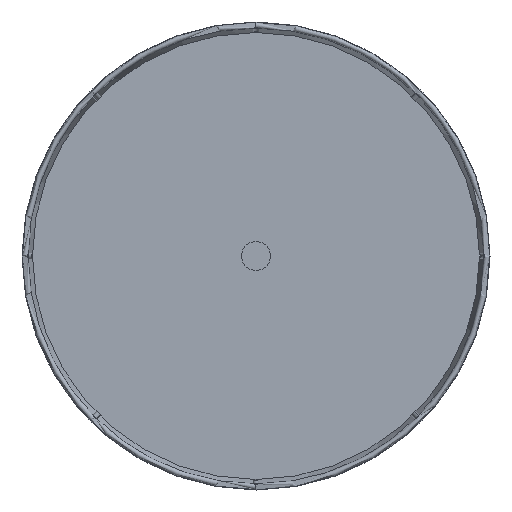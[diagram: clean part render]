
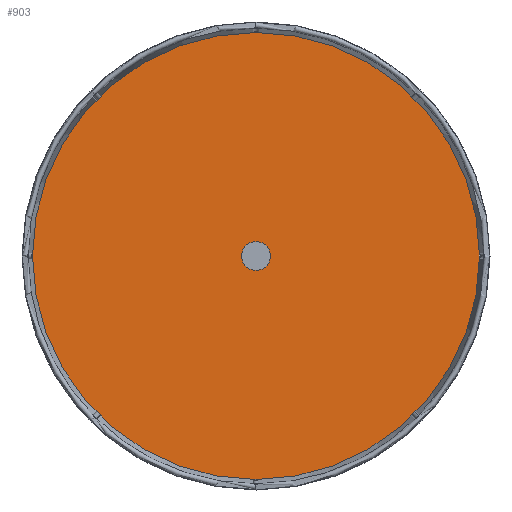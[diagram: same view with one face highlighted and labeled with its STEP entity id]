
A CAD part, front view. The second image highlights one B-rep face of the part: STEP entity #903.
In plain terms, the highlighted planar face has unit normal (0, -1, 0).
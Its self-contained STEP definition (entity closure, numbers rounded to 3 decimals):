
#188 = AXIS2_PLACEMENT_3D ( 'NONE', #11133, #11394, #10922 ) ;
#199 = AXIS2_PLACEMENT_3D ( 'NONE', #9397, #4051, #10299 ) ;
#351 = AXIS2_PLACEMENT_3D ( 'NONE', #3853, #3838, #3822 ) ;
#466 = ORIENTED_EDGE ( 'NONE', *, *, #10085, .F. ) ;
#721 = AXIS2_PLACEMENT_3D ( 'NONE', #5018, #11321, #5906 ) ;
#727 = ORIENTED_EDGE ( 'NONE', *, *, #5564, .T. ) ;
#795 = CARTESIAN_POINT ( 'NONE',  ( 8., -114., 0. ) ) ;
#903 = ADVANCED_FACE ( 'NONE', ( #9829, #7718 ), #5331, .F. ) ;
#2427 = EDGE_LOOP ( 'NONE', ( #727, #3111 ) ) ;
#3111 = ORIENTED_EDGE ( 'NONE', *, *, #8869, .T. ) ;
#3618 = AXIS2_PLACEMENT_3D ( 'NONE', #6225, #8529, #9402 ) ;
#3822 = DIRECTION ( 'NONE',  ( 1., 0., 0. ) ) ;
#3838 = DIRECTION ( 'NONE',  ( 0., 1., 0. ) ) ;
#3853 = CARTESIAN_POINT ( 'NONE',  ( 0., -114., 0. ) ) ;
#4051 = DIRECTION ( 'NONE',  ( 0., 1., 0. ) ) ;
#4303 = VERTEX_POINT ( 'NONE', #10196 ) ;
#4654 = VERTEX_POINT ( 'NONE', #5899 ) ;
#4948 = CIRCLE ( 'NONE', #351, 193. ) ;
#5018 = CARTESIAN_POINT ( 'NONE',  ( 0., -114., 0. ) ) ;
#5331 = PLANE ( 'NONE',  #3618 ) ;
#5564 = EDGE_CURVE ( 'NONE', #4303, #7539, #8543, .T. ) ;
#5899 = CARTESIAN_POINT ( 'NONE',  ( -193., -114., 0. ) ) ;
#5906 = DIRECTION ( 'NONE',  ( -1., 0., 0. ) ) ;
#6105 = EDGE_CURVE ( 'NONE', #11471, #4654, #4948, .T. ) ;
#6225 = CARTESIAN_POINT ( 'NONE',  ( 0., -114., 0. ) ) ;
#6587 = CIRCLE ( 'NONE', #199, 193. ) ;
#6682 = ORIENTED_EDGE ( 'NONE', *, *, #6105, .F. ) ;
#6700 = CARTESIAN_POINT ( 'NONE',  ( 193., -114., 0. ) ) ;
#6980 = CIRCLE ( 'NONE', #721, 8. ) ;
#7539 = VERTEX_POINT ( 'NONE', #795 ) ;
#7548 = EDGE_LOOP ( 'NONE', ( #6682, #466 ) ) ;
#7718 = FACE_BOUND ( 'NONE', #2427, .T. ) ;
#8529 = DIRECTION ( 'NONE',  ( 0., 1., 0. ) ) ;
#8543 = CIRCLE ( 'NONE', #188, 8. ) ;
#8869 = EDGE_CURVE ( 'NONE', #7539, #4303, #6980, .T. ) ;
#9397 = CARTESIAN_POINT ( 'NONE',  ( 0., -114., 0. ) ) ;
#9402 = DIRECTION ( 'NONE',  ( 0., 0., 1. ) ) ;
#9829 = FACE_OUTER_BOUND ( 'NONE', #7548, .T. ) ;
#10085 = EDGE_CURVE ( 'NONE', #4654, #11471, #6587, .T. ) ;
#10196 = CARTESIAN_POINT ( 'NONE',  ( -8., -114., 0. ) ) ;
#10299 = DIRECTION ( 'NONE',  ( 1., 0., 0. ) ) ;
#10922 = DIRECTION ( 'NONE',  ( -1., 0., 0. ) ) ;
#11133 = CARTESIAN_POINT ( 'NONE',  ( 0., -114., 0. ) ) ;
#11321 = DIRECTION ( 'NONE',  ( 0., 1., 0. ) ) ;
#11394 = DIRECTION ( 'NONE',  ( 0., 1., 0. ) ) ;
#11471 = VERTEX_POINT ( 'NONE', #6700 ) ;
